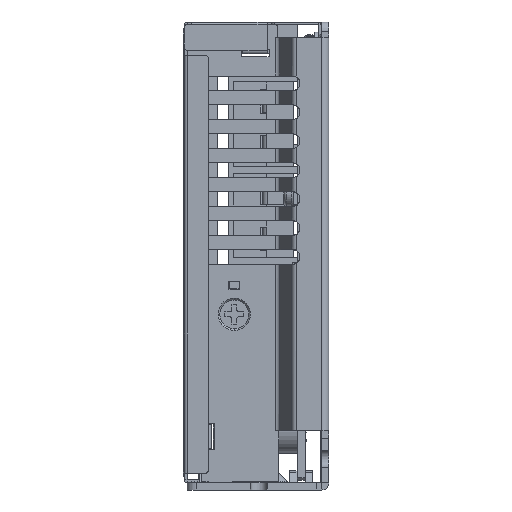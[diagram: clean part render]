
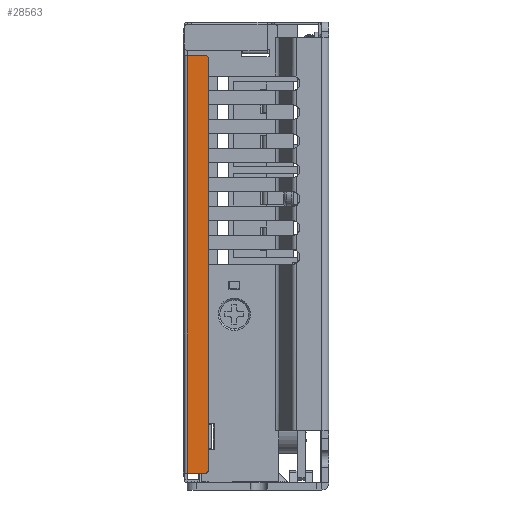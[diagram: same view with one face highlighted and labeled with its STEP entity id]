
A CAD part, left-side view. The second image highlights one B-rep face of the part: STEP entity #28563.
In plain terms, the highlighted planar face has unit normal (-1, 0, 0).
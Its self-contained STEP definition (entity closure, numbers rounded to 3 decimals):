
#22680=DIRECTION('',(0.,0.,-1.));
#22681=VECTOR('',#22680,86.5);
#22682=CARTESIAN_POINT('',(-36.5,-0.6,40.75));
#22683=LINE('',#22682,#22681);
#22697=DIRECTION('',(0.,1.,0.));
#22698=VECTOR('',#22697,3.9);
#22699=CARTESIAN_POINT('',(-36.5,-4.5,40.75));
#22700=LINE('',#22699,#22698);
#22713=CARTESIAN_POINT('',(-36.5,-4.5,-45.25));
#22714=DIRECTION('',(1.,0.,0.));
#22715=DIRECTION('',(0.,-1.,0.));
#22716=AXIS2_PLACEMENT_3D('',#22713,#22714,#22715);
#22718=CARTESIAN_POINT('',(-36.5,-4.5,40.25));
#22719=DIRECTION('',(1.,0.,0.));
#22720=DIRECTION('',(0.,0.,1.));
#22721=AXIS2_PLACEMENT_3D('',#22718,#22719,#22720);
#22731=DIRECTION('',(0.,0.,1.));
#22732=VECTOR('',#22731,4.5);
#22733=CARTESIAN_POINT('',(-36.5,-5.,-45.25));
#22734=LINE('',#22733,#22732);
#22752=DIRECTION('',(0.,0.,1.));
#22753=VECTOR('',#22752,5.1);
#22754=CARTESIAN_POINT('',(-36.5,-5.,-40.75));
#22755=LINE('',#22754,#22753);
#22803=DIRECTION('',(0.,0.,1.));
#22804=VECTOR('',#22803,75.9);
#22805=CARTESIAN_POINT('',(-36.5,-5.,-35.65));
#22806=LINE('',#22805,#22804);
#22837=DIRECTION('',(0.,-1.,0.));
#22838=VECTOR('',#22837,3.9);
#22839=CARTESIAN_POINT('',(-36.5,-0.6,-45.75));
#22840=LINE('',#22839,#22838);
#25631=CARTESIAN_POINT('',(-36.5,-0.6,-45.75));
#25632=VERTEX_POINT('',#25631);
#25633=CARTESIAN_POINT('',(-36.5,-0.6,40.75));
#25634=VERTEX_POINT('',#25633);
#25635=CARTESIAN_POINT('',(-36.5,-4.5,40.75));
#25637=VERTEX_POINT('',#25635);
#25639=CARTESIAN_POINT('',(-36.5,-5.,40.25));
#25640=VERTEX_POINT('',#25639);
#25643=CARTESIAN_POINT('',(-36.5,-5.,-45.25));
#25644=CARTESIAN_POINT('',(-36.5,-4.5,-45.75));
#25645=VERTEX_POINT('',#25643);
#25646=VERTEX_POINT('',#25644);
#25647=CARTESIAN_POINT('',(-36.5,-5.,-35.65));
#25648=VERTEX_POINT('',#25647);
#25649=CARTESIAN_POINT('',(-36.5,-5.,-40.75));
#25650=VERTEX_POINT('',#25649);
#28543=CARTESIAN_POINT('',(-36.5,0.,-45.75));
#28544=DIRECTION('',(-1.,0.,0.));
#28545=DIRECTION('',(0.,0.,-1.));
#28546=AXIS2_PLACEMENT_3D('',#28543,#28544,#28545);
#28547=PLANE('',#28546);
#28549=ORIENTED_EDGE('',*,*,#28548,.T.);
#28551=ORIENTED_EDGE('',*,*,#28550,.F.);
#28552=ORIENTED_EDGE('',*,*,#28494,.F.);
#28553=ORIENTED_EDGE('',*,*,#28520,.F.);
#28554=ORIENTED_EDGE('',*,*,#28533,.T.);
#28556=ORIENTED_EDGE('',*,*,#28555,.F.);
#28558=ORIENTED_EDGE('',*,*,#28557,.F.);
#28560=ORIENTED_EDGE('',*,*,#28559,.F.);
#28561=EDGE_LOOP('',(#28549,#28551,#28552,#28553,#28554,#28556,#28558,#28560));
#28562=FACE_OUTER_BOUND('',#28561,.F.);
#28563=ADVANCED_FACE('',(#28562),#28547,.T.);
#22717=CIRCLE('',#22716,0.5);
#22722=CIRCLE('',#22721,0.5);
#28494=EDGE_CURVE('',#25634,#25632,#22683,.T.);
#28520=EDGE_CURVE('',#25637,#25634,#22700,.T.);
#28533=EDGE_CURVE('',#25637,#25640,#22722,.T.);
#28548=EDGE_CURVE('',#25645,#25646,#22717,.T.);
#28550=EDGE_CURVE('',#25632,#25646,#22840,.T.);
#28555=EDGE_CURVE('',#25648,#25640,#22806,.T.);
#28557=EDGE_CURVE('',#25650,#25648,#22755,.T.);
#28559=EDGE_CURVE('',#25645,#25650,#22734,.T.);
